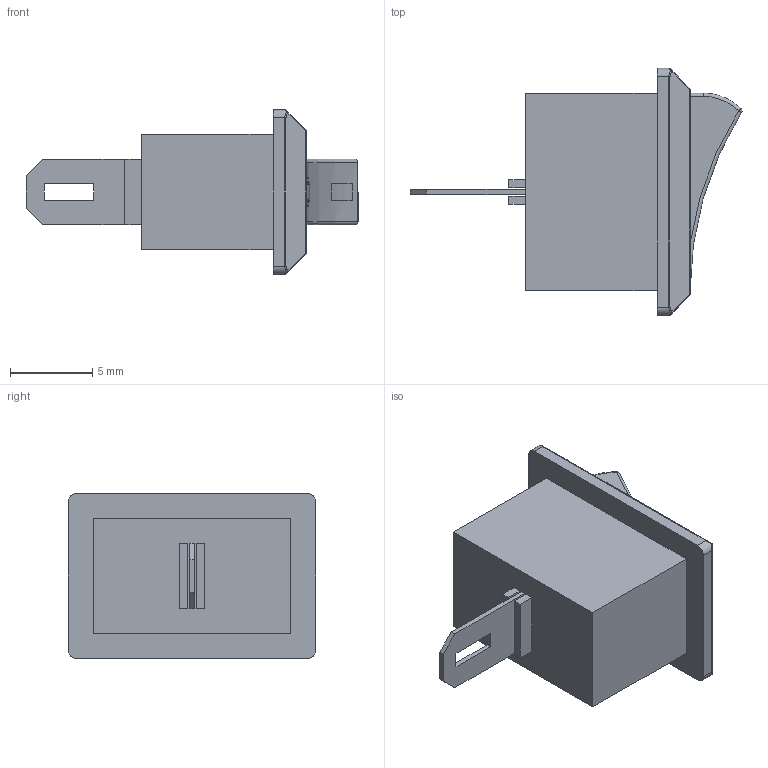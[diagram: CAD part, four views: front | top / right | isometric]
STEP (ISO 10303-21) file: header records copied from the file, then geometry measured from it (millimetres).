
FILE_DESCRIPTION (( 'STEP AP203' ), '1' );
FILE_NAME ('v4v3v210x15mm SPST 2pin on_off G130 Boat Rocker Switch 3A-250V.STEP', '2026-08-19T20:49:52', ( '' ), ( '' ), 'SwSTEP 2.0', 'SolidWorks 2024', '' );
FILE_SCHEMA (( 'CONFIG_CONTROL_DESIGN' ));
Length unit declared in the file: millimetre
Products named in the file (1): v4v3v210x15mm SPST 2pin on_off G130 Boat Rocker Switch 3A-250V
Bounding box: 20.15 x 15 x 10 mm (x, y, z)
Volume: 1001.8 mm3; surface area: 773.1 mm2
Topology: 1 solids, 1 shells, 85 faces, 191 edges, 116 vertices
Faces by surface type: plane 39, cylinder 24, sphere 10, bspline 8, torus 4
Entity records: 2518 total; most frequent: CARTESIAN_POINT 591, DIRECTION 383, ORIENTED_EDGE 382, EDGE_CURVE 191, AXIS2_PLACEMENT_3D 134, VERTEX_POINT 116, LINE 115, VECTOR 115
